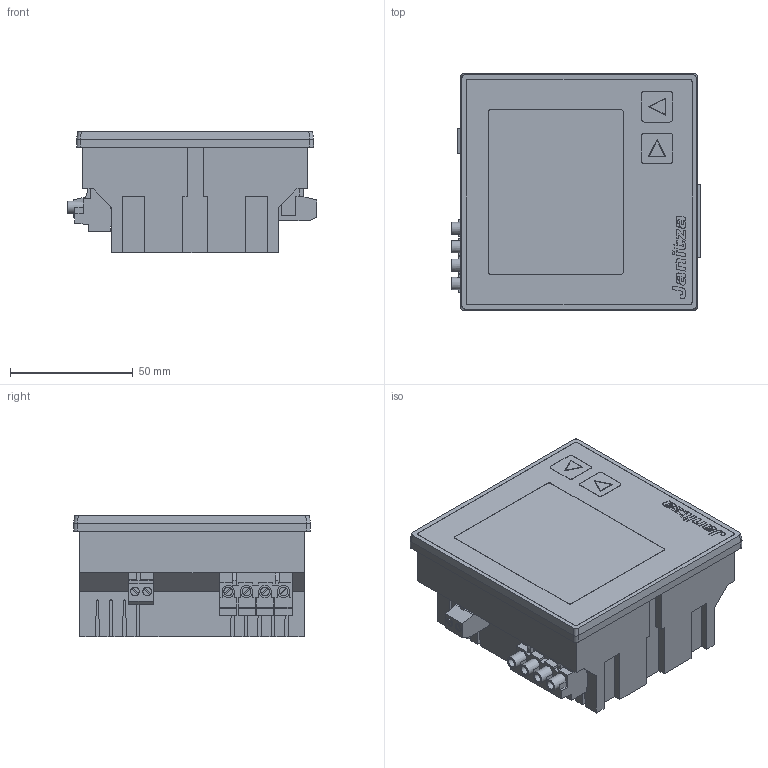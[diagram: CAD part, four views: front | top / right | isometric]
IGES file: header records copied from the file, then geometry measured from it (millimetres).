
Global section: file name: No Iges File Name specified; native system: AutoDesk Inventor R6.1; preprocessor: AutoDesk Inventor Iges Exporter R6.1; author: No Author specified; organization: No Organization specified; date: 20130518.214253; units: millimetre
Bounding box: 101.5 x 96.5 x 49.5 mm (x, y, z)
Surface area: 59088.1 mm2 (no closed solid volume)
Topology: 0 solids, 0 shells, 734 faces, 3976 edges, 3953 vertices
Faces by surface type: plane 530, bspline 115, revolution 89
